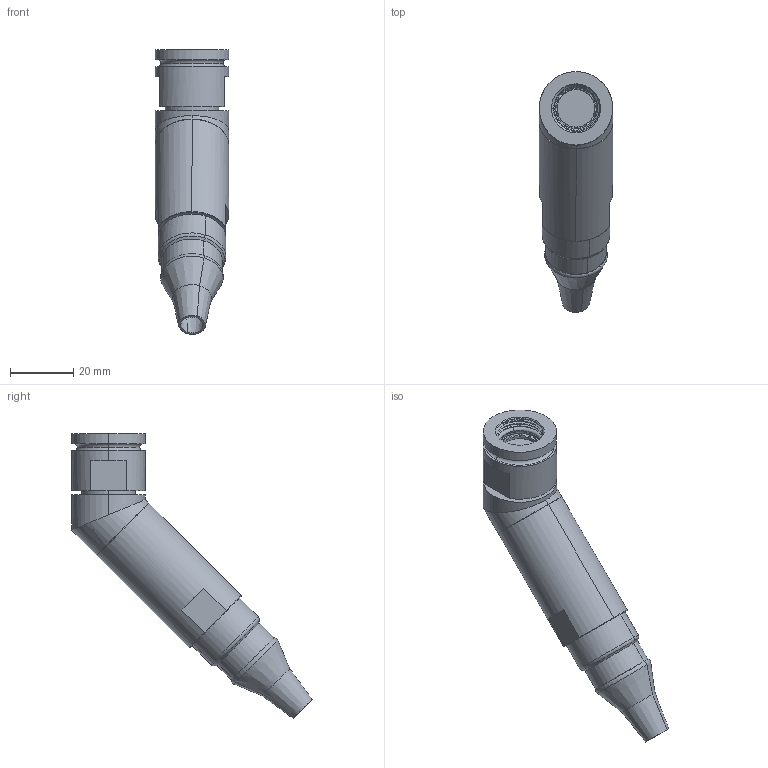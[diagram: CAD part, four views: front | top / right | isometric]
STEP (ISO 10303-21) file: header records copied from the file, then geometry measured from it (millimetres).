
FILE_DESCRIPTION (( 'STEP AP214' ), '1' );
FILE_NAME ('Q38SHELL-45X-11-XXXX-HX.STEP', '2025-09-25T19:42:54', ( '' ), ( '' ), 'SwSTEP 2.0', 'SolidWorks 2024', '' );
FILE_SCHEMA (( 'AUTOMOTIVE_DESIGN' ));
Length unit declared in the file: millimetre
Products named in the file (1): Q38SHELL-45X-11-XXXX-HX
Bounding box: 23.24 x 76.05 x 90.15 mm (x, y, z)
Volume: 35829.7 mm3; surface area: 10682.8 mm2
Topology: 2 solids, 2 shells, 172 faces, 434 edges, 278 vertices
Faces by surface type: plane 93, cylinder 41, cone 20, torus 15, bspline 3
Entity records: 6073 total; most frequent: CARTESIAN_POINT 2023, DIRECTION 866, ORIENTED_EDGE 864, EDGE_CURVE 432, AXIS2_PLACEMENT_3D 362, VERTEX_POINT 278, CIRCLE 192, EDGE_LOOP 188
